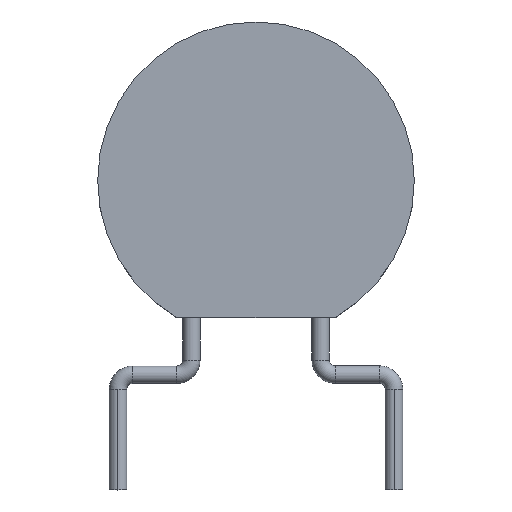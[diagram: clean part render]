
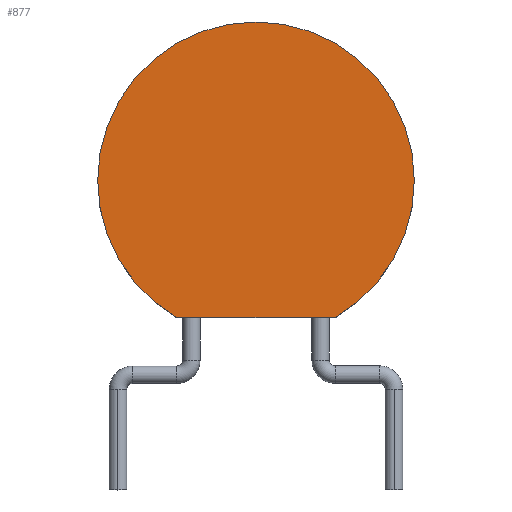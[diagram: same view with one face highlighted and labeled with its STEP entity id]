
A CAD part, top view. The second image highlights one B-rep face of the part: STEP entity #877.
In plain terms, the highlighted planar face has unit normal (0, 0, 1).
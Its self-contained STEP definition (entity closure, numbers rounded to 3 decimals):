
#736 = CARTESIAN_POINT ( 'NONE',  ( 5.45, 8.65, 2.85 ) ) ;
#737 = VERTEX_POINT ( 'NONE', #736 ) ;
#738 = CARTESIAN_POINT ( 'NONE',  ( -5.45, 8.65, 2.85 ) ) ;
#739 = VERTEX_POINT ( 'NONE', #738 ) ;
#740 = CARTESIAN_POINT ( 'NONE',  ( 0., 8.65, 2.85 ) ) ;
#741 = DIRECTION ( 'NONE',  ( 0., 0., 1. ) ) ;
#742 = DIRECTION ( 'NONE',  ( -1., 0., 0. ) ) ;
#743 = AXIS2_PLACEMENT_3D ( 'NONE', #740, #741, #742 ) ;
#744 = CIRCLE ( 'NONE', #743, 5.45) ;
#745 = EDGE_CURVE ( 'NONE', #737, #739, #744, .T. ) ;
#778 = CARTESIAN_POINT ( 'NONE',  ( -2.725, 3.93, 2.85 ) ) ;
#779 = VERTEX_POINT ( 'NONE', #778 ) ;
#780 = CARTESIAN_POINT ( 'NONE',  ( 0., 8.65, 2.85 ) ) ;
#781 = DIRECTION ( 'NONE',  ( 0., 0., 1. ) ) ;
#782 = DIRECTION ( 'NONE',  ( -1., 0., 0. ) ) ;
#783 = AXIS2_PLACEMENT_3D ( 'NONE', #780, #781, #782 ) ;
#784 = CIRCLE ( 'NONE', #783, 5.45) ;
#785 = EDGE_CURVE ( 'NONE', #739, #779, #784, .T. ) ;
#812 = CARTESIAN_POINT ( 'NONE',  ( 2.725, 3.93, 2.85 ) ) ;
#813 = VERTEX_POINT ( 'NONE', #812 ) ;
#814 = CARTESIAN_POINT ( 'NONE',  ( 0., 8.65, 2.85 ) ) ;
#815 = DIRECTION ( 'NONE',  ( 0., 0., 1. ) ) ;
#816 = DIRECTION ( 'NONE',  ( -1., 0., 0. ) ) ;
#817 = AXIS2_PLACEMENT_3D ( 'NONE', #814, #815, #816 ) ;
#818 = CIRCLE ( 'NONE', #817, 5.45) ;
#819 = EDGE_CURVE ( 'NONE', #813, #737, #818, .T. ) ;
#851 = CARTESIAN_POINT ( 'NONE',  ( -2.725, 3.93, 2.85 ) ) ;
#852 = DIRECTION ( 'NONE',  ( 1., 0., 0. ) ) ;
#853 = VECTOR ( 'NONE', #852, 1000. ) ;
#854 = LINE ( 'NONE', #851, #853 ) ;
#855 = EDGE_CURVE ( 'NONE', #779, #813, #854, .T. ) ;
#866 = ORIENTED_EDGE ( 'NONE', *, *, #819, .T. ) ;
#867 = ORIENTED_EDGE ( 'NONE', *, *, #745, .T. ) ;
#868 = ORIENTED_EDGE ( 'NONE', *, *, #785, .T. ) ;
#869 = ORIENTED_EDGE ( 'NONE', *, *, #855, .T. ) ;
#870 = EDGE_LOOP ( 'NONE', ( #866, #867, #868, #869 ) ) ;
#871 = FACE_OUTER_BOUND ( 'NONE', #870, .T. ) ;
#872 = CARTESIAN_POINT ( 'NONE',  ( 0., 8.65, 2.85 ) ) ;
#873 = DIRECTION ( 'NONE',  ( 0., 0., -1. ) ) ;
#874 = DIRECTION ( 'NONE',  ( -1., 0., 0. ) ) ;
#875 = AXIS2_PLACEMENT_3D ( 'NONE', #872, #873, #874 ) ;
#876 = PLANE ( 'NONE', #875 ) ;
#877 = ADVANCED_FACE ( 'NONE', ( #871 ), #876, .F. ) ;
